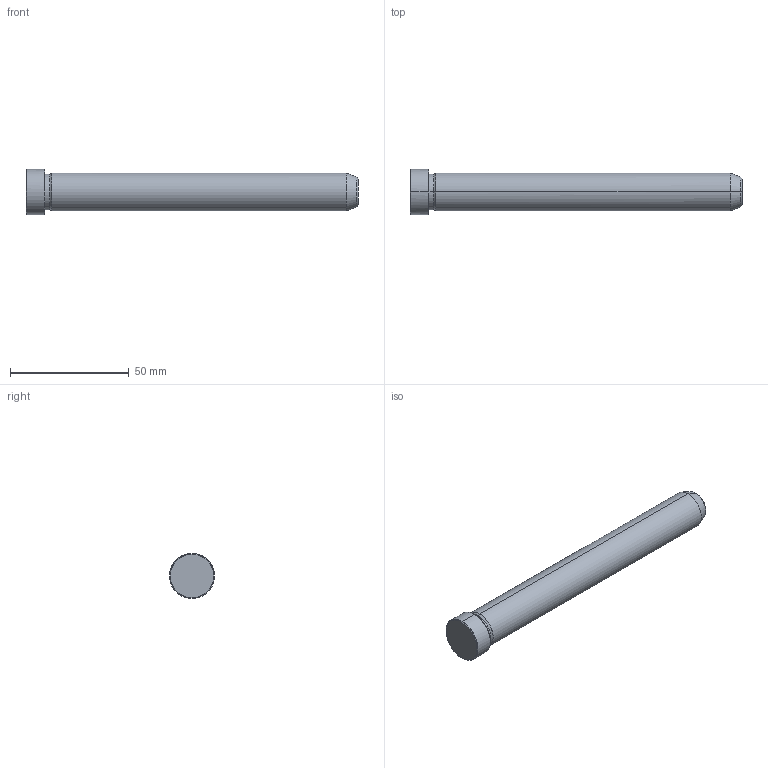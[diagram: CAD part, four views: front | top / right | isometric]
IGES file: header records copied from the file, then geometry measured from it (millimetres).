
Start section: START RECORD GO HERE.
Global section: file name: 549-16X140.igs; native system: DASSAULT SYSTEMES CATIA V5 R20 - www.3ds.com; preprocessor: CATIA Version 5 Release 20 ; author: Utente; organization: NB04-ASUS; date: 20211211.103223; units: millimetre
Bounding box: 140 x 19 x 19 mm (x, y, z)
Surface area: 7572.1 mm2 (no closed solid volume)
Topology: 0 solids, 0 shells, 19 faces, 112 edges, 112 vertices
Faces by surface type: revolution 16, plane 3
